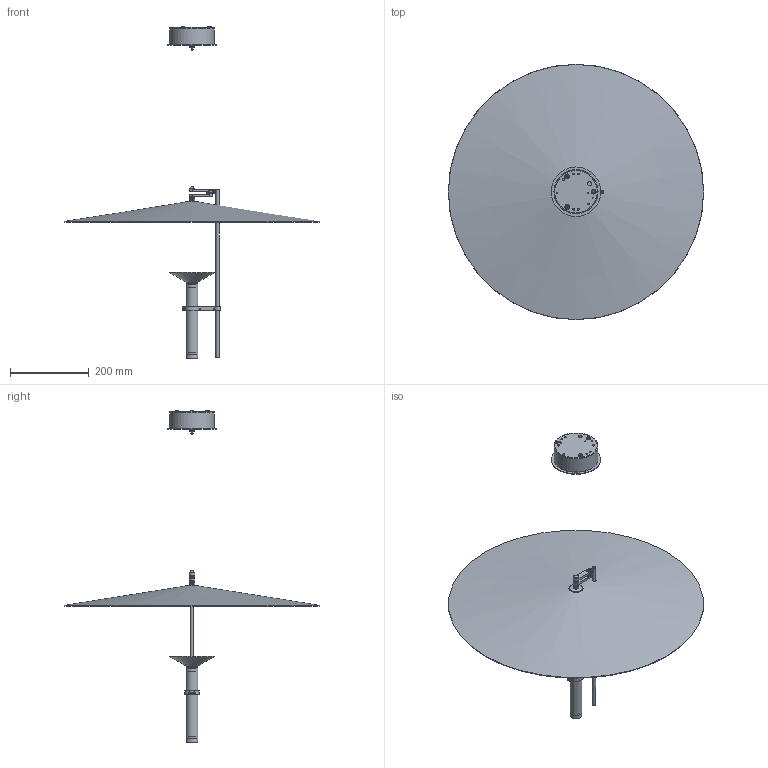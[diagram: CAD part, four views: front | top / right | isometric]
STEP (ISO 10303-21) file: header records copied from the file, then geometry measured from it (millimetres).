
FILE_DESCRIPTION(/* description */ ('Unknown'),/* implementation_level */ '2;1');
FILE_NAME(/* name */ '9703',/* time_stamp */ '2022-03-14T17:09:58+01:00',/* author */ ('Unknown'),/* organization */ ('Unknown'),/* preprocessor_version */ 'ST-DEVELOPER v18.1',/* originating_system */ 'Solid Edge',/* authorisation */ 'Unknown');
FILE_SCHEMA (('AUTOMOTIVE_DESIGN {1 0 10303 214 3 1 1}'));
Length unit declared in the file: millimetre
Products named in the file (45): 9703-9705; 152000405064; 151001779064; 155000785001; 155000128002; 155000128002_01; 155000128002_02; 155000781001; 152000402064; 155000780001; 060000359352; 155000791001; 210000075013; 155000776001; 210000033013; 067000129352; 155000786001; 155000779001; 155000777001; 131000181001; 155000773001; 210000063013; 131000184064; 067000128352; 155000774001; 061000410351; 063000194352; 006000342W30; CXA1830_ROUTING; CXA1830_TM; CXA1830_SM; CXA1830; CXA1830_DIELECTRIC; CREE_LOGO; CXA1830_POSITIVE; CXA1830_ENCAPSULANT; CXA_1830N; 101000227523; 155000778001; R2489-1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
Assembly tree (47 placements, depth 3):
  9703-9705
    152000405064
    151001779064
    155000785001
    155000128002
      155000128002_01
      155000128002_02
    155000781001
    152000402064
    155000780001
    060000359352  x2
    155000791001
    210000075013
    155000776001
    210000033013
    067000129352
    155000786001
    155000779001
    155000777001
    131000181001
    155000773001
    210000063013
    131000184064
    067000128352
    155000774001
    061000410351
    063000194352
    006000342W30
      CXA1830_ROUTING
      CXA1830_TM
      CXA1830_SM
      CXA1830
      CXA1830_DIELECTRIC
      CREE_LOGO
      CXA1830_POSITIVE
      CXA1830_ENCAPSULANT
      CXA_1830N
    101000227523
    155000778001
    R2489-1
    R2449-9
    060000157356
    R2341-5  x2
    R2181-5  x2
    060000108351
Bounding box: 650 x 650 x 845 mm (x, y, z)
Volume: 912051.2 mm3; surface area: 868929.4 mm2
Topology: 61 solids, 65 shells, 1514 faces, 3923 edges, 2591 vertices
Faces by surface type: plane 1065, cylinder 329, cone 59, bspline 38, torus 20, sphere 3
Full cylindrical faces by diameter (mm): 0.6 x2, 1.15 x4, 1.3 x1, 1.4 x2, 1.5 x11, 1.7 x1, 2.25 x2, 2.3 x4, 2.459 x7, 2.599 x1, 2.7 x3, 3 x7, 3.15 x1, 3.2 x3, 3.242 x4, 3.3 x2, 4 x7, 4.134 x2, 4.5 x5, 4.98 x2, 5 x15, 5.1 x1, 5.2 x2, 5.3 x4, 5.6 x1, 5.8 x1, 6 x4, 6.6 x2, 6.917 x1, 8 x3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
Entity records: 52543 total; most frequent: CARTESIAN_POINT 9249, DIRECTION 7120, ORIENTED_EDGE 7056, EDGE_CURVE 3528, LINE 2574, VECTOR 2574, VERTEX_POINT 2456, AXIS2_PLACEMENT_3D 2273
